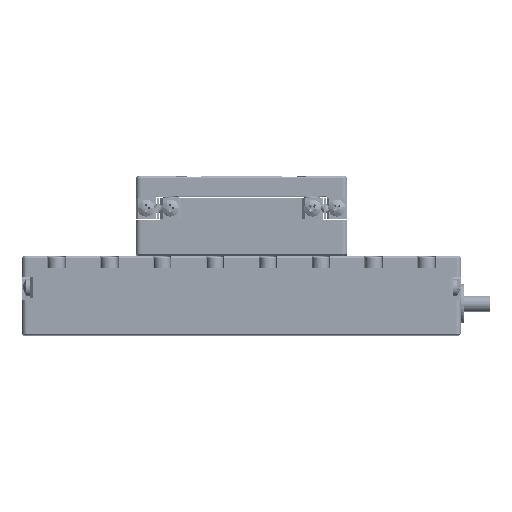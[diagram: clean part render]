
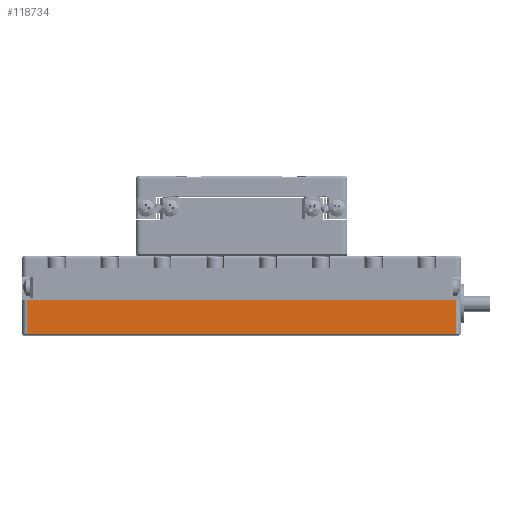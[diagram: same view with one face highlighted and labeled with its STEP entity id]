
A CAD part, top view. The second image highlights one B-rep face of the part: STEP entity #118734.
In plain terms, the highlighted planar face has unit normal (0, 0, 1).
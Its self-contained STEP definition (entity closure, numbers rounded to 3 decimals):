
#1396 = CARTESIAN_POINT ( 'NONE',  ( -28.322, 10.007, 19.999 ) ) ;
#8050 = CARTESIAN_POINT ( 'NONE',  ( -28.322, 3.607, 19.999 ) ) ;
#8391 = VECTOR ( 'NONE', #159800, 1000. ) ;
#11399 = ORIENTED_EDGE ( 'NONE', *, *, #65721, .F. ) ;
#17074 = LINE ( 'NONE', #138616, #47965 ) ;
#34537 = EDGE_CURVE ( 'NONE', #81756, #154166, #139835, .T. ) ;
#47965 = VECTOR ( 'NONE', #169780, 1000. ) ;
#56567 = EDGE_CURVE ( 'NONE', #62940, #81756, #96386, .T. ) ;
#58767 = VECTOR ( 'NONE', #188402, 1000. ) ;
#62390 = CARTESIAN_POINT ( 'NONE',  ( 52.678, 3.607, 19.999 ) ) ;
#62940 = VERTEX_POINT ( 'NONE', #129946 ) ;
#65721 = EDGE_CURVE ( 'NONE', #154166, #197244, #17074, .T. ) ;
#78995 = LINE ( 'NONE', #112655, #157478 ) ;
#81756 = VERTEX_POINT ( 'NONE', #62390 ) ;
#96386 = LINE ( 'NONE', #190268, #8391 ) ;
#97778 = PLANE ( 'NONE',  #140516 ) ;
#98698 = CARTESIAN_POINT ( 'NONE',  ( -29.322, 3.607, 19.999 ) ) ;
#112655 = CARTESIAN_POINT ( 'NONE',  ( -29.322, 10.007, 19.999 ) ) ;
#118734 = ADVANCED_FACE ( 'NONE', ( #164121 ), #97778, .F. ) ;
#119215 = ORIENTED_EDGE ( 'NONE', *, *, #193562, .F. ) ;
#126164 = ORIENTED_EDGE ( 'NONE', *, *, #34537, .F. ) ;
#129946 = CARTESIAN_POINT ( 'NONE',  ( 52.678, 10.007, 19.999 ) ) ;
#138616 = CARTESIAN_POINT ( 'NONE',  ( -28.322, 14.307, 19.999 ) ) ;
#139835 = LINE ( 'NONE', #98698, #58767 ) ;
#140516 = AXIS2_PLACEMENT_3D ( 'NONE', #156417, #158975, #174270 ) ;
#154166 = VERTEX_POINT ( 'NONE', #8050 ) ;
#156417 = CARTESIAN_POINT ( 'NONE',  ( -29.322, 14.307, 19.999 ) ) ;
#156987 = EDGE_LOOP ( 'NONE', ( #126164, #195622, #119215, #11399 ) ) ;
#157478 = VECTOR ( 'NONE', #190330, 1000. ) ;
#158975 = DIRECTION ( 'NONE',  ( 0., 0., -1. ) ) ;
#159800 = DIRECTION ( 'NONE',  ( 0., -1., 0. ) ) ;
#164121 = FACE_OUTER_BOUND ( 'NONE', #156987, .T. ) ;
#169780 = DIRECTION ( 'NONE',  ( 0., 1., 0. ) ) ;
#174270 = DIRECTION ( 'NONE',  ( -1., 0., 0. ) ) ;
#188402 = DIRECTION ( 'NONE',  ( -1., 0., 0. ) ) ;
#190268 = CARTESIAN_POINT ( 'NONE',  ( 52.678, 14.307, 19.999 ) ) ;
#190330 = DIRECTION ( 'NONE',  ( 1., 0., 0. ) ) ;
#193562 = EDGE_CURVE ( 'NONE', #197244, #62940, #78995, .T. ) ;
#195622 = ORIENTED_EDGE ( 'NONE', *, *, #56567, .F. ) ;
#197244 = VERTEX_POINT ( 'NONE', #1396 ) ;
